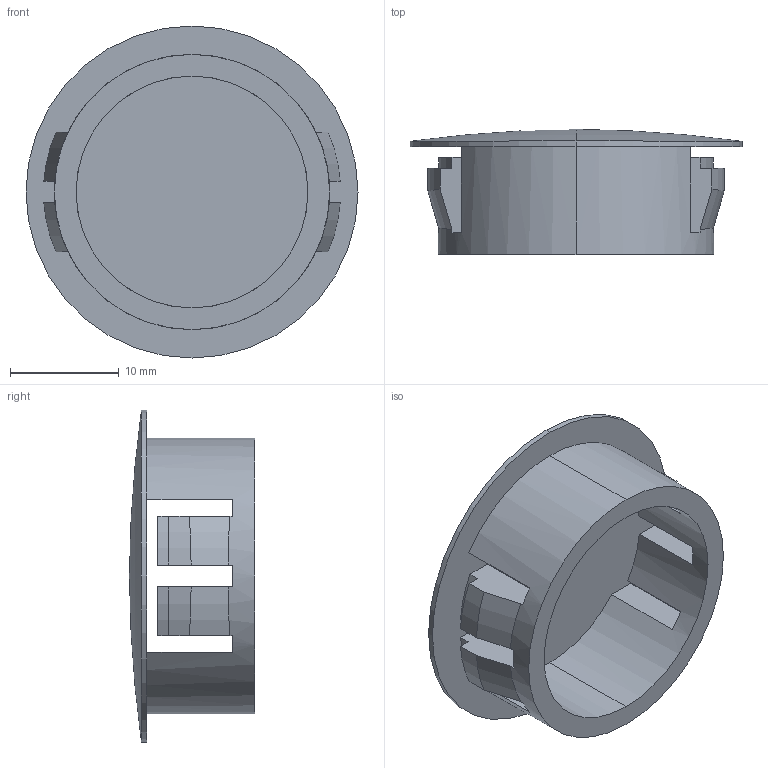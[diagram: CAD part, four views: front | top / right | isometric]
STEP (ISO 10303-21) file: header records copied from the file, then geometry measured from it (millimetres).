
FILE_DESCRIPTION (( 'STEP AP203' ), '1' );
FILE_NAME ('EBHP-12.STEP', '2013-08-03T05:02:12', ( 'SDS' ), ( 'SDS' ), 'SwSTEP 2.0', 'SolidWorks 2002296', '' );
FILE_SCHEMA (( 'CONFIG_CONTROL_DESIGN' ));
Length unit declared in the file: millimetre
Products named in the file (1): EBHP-12
Bounding box: 30.5 x 11.5 x 30.5 mm (x, y, z)
Volume: 2058.2 mm3; surface area: 3117.8 mm2
Topology: 1 solids, 1 shells, 48 faces, 142 edges, 93 vertices
Faces by surface type: plane 28, cylinder 18, torus 2
Entity records: 1705 total; most frequent: CARTESIAN_POINT 320, ORIENTED_EDGE 280, DIRECTION 276, EDGE_CURVE 140, AXIS2_PLACEMENT_3D 95, VERTEX_POINT 93, LINE 86, VECTOR 86
